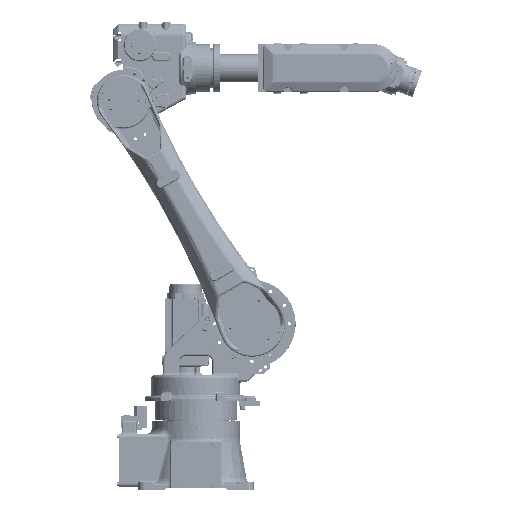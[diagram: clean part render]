
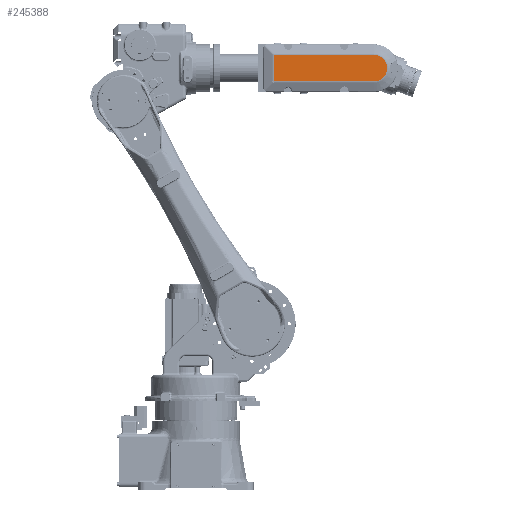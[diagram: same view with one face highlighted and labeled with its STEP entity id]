
A CAD part, front view. The second image highlights one B-rep face of the part: STEP entity #245388.
In plain terms, the highlighted planar face has unit normal (0, -1, 0) as drawn and (-1, 0, 0) by its records, which use the part's own axes.
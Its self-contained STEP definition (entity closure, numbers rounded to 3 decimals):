
#244691=CARTESIAN_POINT('',(-105.5,0.,0.));
#244692=DIRECTION('',(-1.,0.,0.));
#244693=DIRECTION('',(0.,0.017,-1.));
#244694=AXIS2_PLACEMENT_3D('',#244691,#244692,#244693);
#244716=DIRECTION('',(0.,1.,0.));
#244717=VECTOR('',#244716,303.926);
#244718=CARTESIAN_POINT('',(-105.5,-303.926,
-40.426));
#244719=LINE('',#244718,#244717);
#244720=CARTESIAN_POINT('',(-105.5,0.,0.));
#244721=DIRECTION('',(1.,0.,0.));
#244722=DIRECTION('',(0.,0.017,-1.));
#244723=AXIS2_PLACEMENT_3D('',#244720,#244721,#244722);
#244725=DIRECTION('',(0.,1.,0.));
#244726=VECTOR('',#244725,303.927);
#244727=CARTESIAN_POINT('',(-105.5,-303.926,
40.426));
#244728=LINE('',#244727,#244726);
#244922=DIRECTION('',(0.,0.,1.));
#244923=VECTOR('',#244922,80.853);
#244924=CARTESIAN_POINT('',(-105.5,-303.926,
-40.426));
#244925=LINE('',#244924,#244923);
#245166=CARTESIAN_POINT('',(-105.5,-303.926,
40.426));
#245168=VERTEX_POINT('',#245166);
#245205=CARTESIAN_POINT('',(-105.5,-303.926,
-40.426));
#245207=VERTEX_POINT('',#245205);
#245266=CARTESIAN_POINT('',(-105.5,0.704,-40.42));
#245267=CARTESIAN_POINT('',(-105.5,0.,40.426));
#245268=VERTEX_POINT('',#245266);
#245269=VERTEX_POINT('',#245267);
#245270=CARTESIAN_POINT('',(-105.5,0.,-40.426));
#245271=VERTEX_POINT('',#245270);
#245373=CARTESIAN_POINT('',(-105.5,-131.75,0.));
#245374=DIRECTION('',(1.,0.,0.));
#245375=DIRECTION('',(0.,0.,1.));
#245376=AXIS2_PLACEMENT_3D('',#245373,#245374,#245375);
#245377=PLANE('',#245376);
#245379=ORIENTED_EDGE('',*,*,#245378,.F.);
#245381=ORIENTED_EDGE('',*,*,#245380,.F.);
#245383=ORIENTED_EDGE('',*,*,#245382,.T.);
#245384=ORIENTED_EDGE('',*,*,#245362,.F.);
#245385=ORIENTED_EDGE('',*,*,#245360,.T.);
#245386=EDGE_LOOP('',(#245379,#245381,#245383,#245384,#245385));
#245387=FACE_OUTER_BOUND('',#245386,.F.);
#245388=ADVANCED_FACE('',(#245387),#245377,.F.);
#244695=CIRCLE('',#244694,40.426);
#244724=CIRCLE('',#244723,40.426);
#245360=EDGE_CURVE('',#245268,#245269,#244724,.T.);
#245362=EDGE_CURVE('',#245268,#245271,#244695,.T.);
#245378=EDGE_CURVE('',#245168,#245269,#244728,.T.);
#245380=EDGE_CURVE('',#245207,#245168,#244925,.T.);
#245382=EDGE_CURVE('',#245207,#245271,#244719,.T.);
